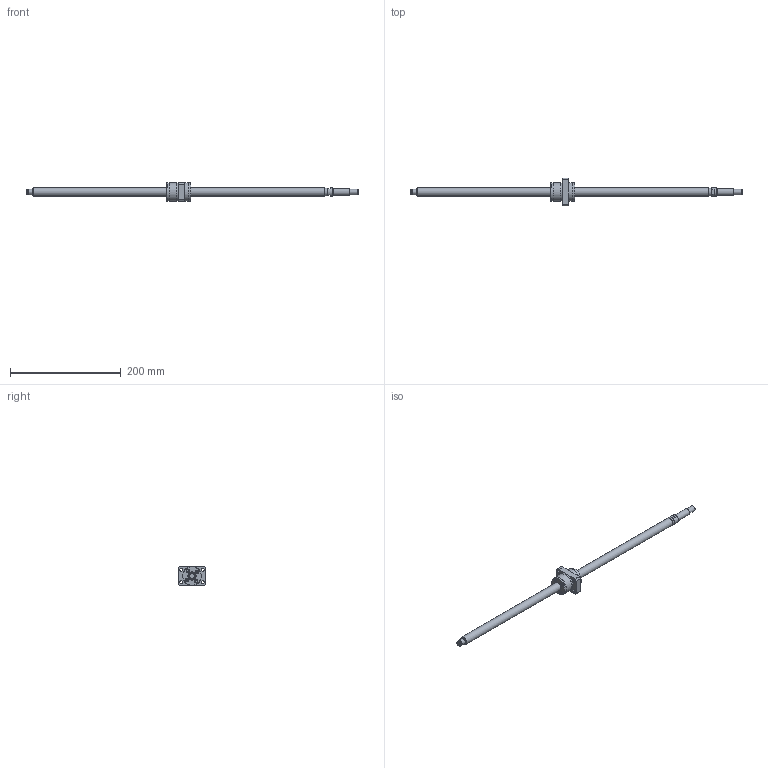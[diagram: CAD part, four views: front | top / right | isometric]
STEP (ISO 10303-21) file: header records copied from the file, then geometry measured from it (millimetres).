
FILE_DESCRIPTION(/* description */ ('STEP AP214'),/* implementation_level */ '2;1');
FILE_NAME(/* name */ 'SG1510-528R600C5B0X(242.5)',/* time_stamp */ '2026-07-24T21:03:08+02:00',/* author */ ('License CC BY-ND 4.0'),/* organization */ ('CADENAS'),/* preprocessor_version */ 'ST-DEVELOPER v20',/* originating_system */ 'PARTsolutions',/* authorisation */ ' ');
FILE_SCHEMA (('AUTOMOTIVE_DESIGN {1 0 10303 214 3 1 1}'));
Length unit declared in the file: millimetre
Products named in the file (3): SG1510-528R600C5B0X(242.5); SG1510-528R600C5B_shaft; SG1510 C5_nut
Assembly tree (2 placements, depth 2):
  SG1510-528R600C5B0X(242.5)
    SG1510-528R600C5B_shaft
    SG1510 C5_nut
Bounding box: 600 x 50 x 34 mm (x, y, z)
Volume: 138532.1 mm3; surface area: 39365.7 mm2
Topology: 2 solids, 2 shells, 121 faces, 268 edges, 173 vertices
Faces by surface type: plane 76, cylinder 36, cone 8, torus 1
Full cylindrical faces by diameter (mm): 2 x1, 4.917 x1, 5.5 x8, 9.5 x4, 9.6 x1, 10 x3, 12 x1, 14.387 x1, 15 x3, 33.5 x3, 34 x2
Entity records: 3234 total; most frequent: DIRECTION 568, CARTESIAN_POINT 532, ORIENTED_EDGE 456, EDGE_CURVE 228, AXIS2_PLACEMENT_3D 217, EDGE_LOOP 192, FACE_BOUND 192, VERTEX_POINT 170
